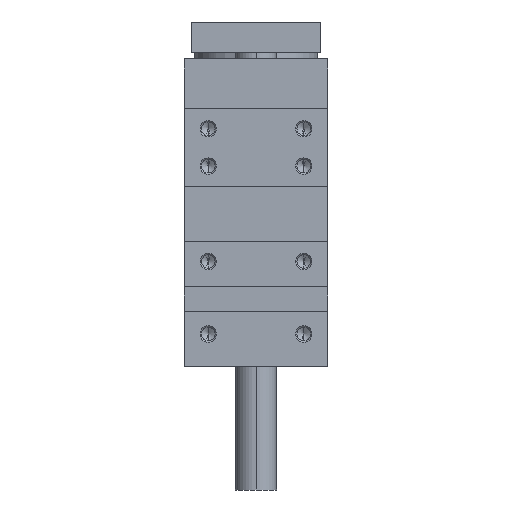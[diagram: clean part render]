
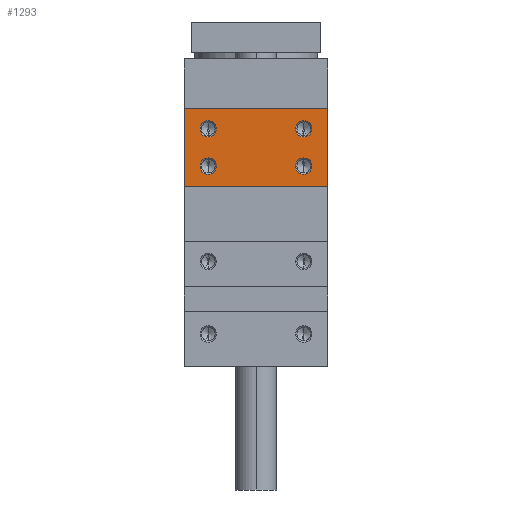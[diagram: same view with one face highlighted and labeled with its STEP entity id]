
A CAD part, left-side view. The second image highlights one B-rep face of the part: STEP entity #1293.
In plain terms, the highlighted planar face has unit normal (-1, 0, 0).
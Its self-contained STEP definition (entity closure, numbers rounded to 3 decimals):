
#66 = CARTESIAN_POINT ( 'NONE',  ( -68.5, -23.25, 37. ) ) ;
#88 = DIRECTION ( 'NONE',  ( 0., 0., 1. ) ) ;
#271 = EDGE_LOOP ( 'NONE', ( #1441, #5821 ) ) ;
#322 = EDGE_CURVE ( 'NONE', #6938, #2048, #3311, .T. ) ;
#430 = VERTEX_POINT ( 'NONE', #8166 ) ;
#488 = DIRECTION ( 'NONE',  ( 0., 0., 1. ) ) ;
#612 = CARTESIAN_POINT ( 'NONE',  ( -68.5, -23.25, 22.8 ) ) ;
#737 = DIRECTION ( 'NONE',  ( 1., 0., 0. ) ) ;
#783 = ORIENTED_EDGE ( 'NONE', *, *, #9609, .T. ) ;
#896 = EDGE_CURVE ( 'NONE', #8604, #430, #3978, .T. ) ;
#906 = VECTOR ( 'NONE', #2776, 1000. ) ;
#1014 = CARTESIAN_POINT ( 'NONE',  ( -68.5, -23.25, 41. ) ) ;
#1050 = VERTEX_POINT ( 'NONE', #2504 ) ;
#1072 = AXIS2_PLACEMENT_3D ( 'NONE', #5644, #7239, #10578 ) ;
#1118 = DIRECTION ( 'NONE',  ( 1., 0., 0. ) ) ;
#1194 = DIRECTION ( 'NONE',  ( 0., 0., -1. ) ) ;
#1204 = EDGE_LOOP ( 'NONE', ( #9007, #783 ) ) ;
#1293 = ADVANCED_FACE ( 'NONE', ( #5933, #6594, #8232, #9276, #2372 ), #3183, .F. ) ;
#1441 = ORIENTED_EDGE ( 'NONE', *, *, #8041, .T. ) ;
#1533 = CIRCLE ( 'NONE', #9405, 4. ) ;
#1868 = ORIENTED_EDGE ( 'NONE', *, *, #9550, .F. ) ;
#1880 = AXIS2_PLACEMENT_3D ( 'NONE', #9111, #4836, #2475 ) ;
#2021 = CARTESIAN_POINT ( 'NONE',  ( -68.5, 35., 9. ) ) ;
#2048 = VERTEX_POINT ( 'NONE', #7280 ) ;
#2294 = ORIENTED_EDGE ( 'NONE', *, *, #3479, .T. ) ;
#2303 = VECTOR ( 'NONE', #488, 1000. ) ;
#2346 = EDGE_CURVE ( 'NONE', #10829, #6626, #2777, .T. ) ;
#2372 = FACE_BOUND ( 'NONE', #1204, .T. ) ;
#2399 = CARTESIAN_POINT ( 'NONE',  ( -68.5, 23.25, 18.8 ) ) ;
#2405 = CARTESIAN_POINT ( 'NONE',  ( -68.5, 35., -79. ) ) ;
#2422 = AXIS2_PLACEMENT_3D ( 'NONE', #2399, #5740, #4804 ) ;
#2425 = EDGE_CURVE ( 'NONE', #430, #8604, #1533, .T. ) ;
#2475 = DIRECTION ( 'NONE',  ( 0., 1., 0. ) ) ;
#2504 = CARTESIAN_POINT ( 'NONE',  ( -68.5, 35., 47. ) ) ;
#2580 = LINE ( 'NONE', #5921, #2303 ) ;
#2602 = DIRECTION ( 'NONE',  ( 0., 0., -1. ) ) ;
#2710 = CIRCLE ( 'NONE', #10402, 4. ) ;
#2759 = EDGE_CURVE ( 'NONE', #3083, #3423, #7859, .T. ) ;
#2776 = DIRECTION ( 'NONE',  ( 0., -1., 0. ) ) ;
#2777 = CIRCLE ( 'NONE', #5750, 4. ) ;
#2902 = ORIENTED_EDGE ( 'NONE', *, *, #2425, .T. ) ;
#2977 = EDGE_CURVE ( 'NONE', #3423, #5714, #2580, .T. ) ;
#2998 = CIRCLE ( 'NONE', #1072, 4. ) ;
#3083 = VERTEX_POINT ( 'NONE', #2021 ) ;
#3183 = PLANE ( 'NONE',  #1880 ) ;
#3255 = DIRECTION ( 'NONE',  ( 1., 0., 0. ) ) ;
#3311 = CIRCLE ( 'NONE', #4525, 4. ) ;
#3395 = VECTOR ( 'NONE', #88, 1000. ) ;
#3423 = VERTEX_POINT ( 'NONE', #7607 ) ;
#3429 = EDGE_CURVE ( 'NONE', #1050, #5714, #3485, .T. ) ;
#3479 = EDGE_CURVE ( 'NONE', #6626, #10829, #9147, .T. ) ;
#3485 = LINE ( 'NONE', #3534, #906 ) ;
#3534 = CARTESIAN_POINT ( 'NONE',  ( -68.5, 70., 47. ) ) ;
#3631 = CARTESIAN_POINT ( 'NONE',  ( -68.5, 70., 9. ) ) ;
#3872 = CARTESIAN_POINT ( 'NONE',  ( -68.5, 23.25, 37. ) ) ;
#3978 = CIRCLE ( 'NONE', #2422, 4. ) ;
#4442 = CIRCLE ( 'NONE', #8130, 4. ) ;
#4525 = AXIS2_PLACEMENT_3D ( 'NONE', #3872, #4538, #1194 ) ;
#4538 = DIRECTION ( 'NONE',  ( 1., 0., 0. ) ) ;
#4804 = DIRECTION ( 'NONE',  ( 0., 0., -1. ) ) ;
#4836 = DIRECTION ( 'NONE',  ( 1., 0., 0. ) ) ;
#5029 = CARTESIAN_POINT ( 'NONE',  ( -68.5, -23.25, 37. ) ) ;
#5224 = CARTESIAN_POINT ( 'NONE',  ( -68.5, 23.25, 33. ) ) ;
#5286 = DIRECTION ( 'NONE',  ( 0., 0., -1. ) ) ;
#5337 = ORIENTED_EDGE ( 'NONE', *, *, #2977, .T. ) ;
#5397 = CARTESIAN_POINT ( 'NONE',  ( -68.5, -23.25, 18.8 ) ) ;
#5624 = EDGE_CURVE ( 'NONE', #10854, #9894, #4442, .T. ) ;
#5644 = CARTESIAN_POINT ( 'NONE',  ( -68.5, 23.25, 37. ) ) ;
#5714 = VERTEX_POINT ( 'NONE', #8524 ) ;
#5727 = DIRECTION ( 'NONE',  ( 0., 0., -1. ) ) ;
#5740 = DIRECTION ( 'NONE',  ( 1., 0., 0. ) ) ;
#5750 = AXIS2_PLACEMENT_3D ( 'NONE', #5397, #7205, #5286 ) ;
#5821 = ORIENTED_EDGE ( 'NONE', *, *, #322, .T. ) ;
#5921 = CARTESIAN_POINT ( 'NONE',  ( -68.5, -35., -79. ) ) ;
#5933 = FACE_OUTER_BOUND ( 'NONE', #10526, .T. ) ;
#5957 = DIRECTION ( 'NONE',  ( 0., 0., -1. ) ) ;
#6069 = CARTESIAN_POINT ( 'NONE',  ( -68.5, -23.25, 14.8 ) ) ;
#6515 = AXIS2_PLACEMENT_3D ( 'NONE', #9458, #1118, #5957 ) ;
#6524 = ORIENTED_EDGE ( 'NONE', *, *, #3429, .F. ) ;
#6594 = FACE_BOUND ( 'NONE', #7285, .T. ) ;
#6626 = VERTEX_POINT ( 'NONE', #612 ) ;
#6938 = VERTEX_POINT ( 'NONE', #5224 ) ;
#6984 = DIRECTION ( 'NONE',  ( 0., -1., 0. ) ) ;
#7202 = VECTOR ( 'NONE', #6984, 1000. ) ;
#7205 = DIRECTION ( 'NONE',  ( 1., 0., 0. ) ) ;
#7239 = DIRECTION ( 'NONE',  ( 1., 0., 0. ) ) ;
#7280 = CARTESIAN_POINT ( 'NONE',  ( -68.5, 23.25, 41. ) ) ;
#7285 = EDGE_LOOP ( 'NONE', ( #2902, #9688 ) ) ;
#7607 = CARTESIAN_POINT ( 'NONE',  ( -68.5, -35., 9. ) ) ;
#7859 = LINE ( 'NONE', #3631, #7202 ) ;
#7912 = EDGE_LOOP ( 'NONE', ( #2294, #10476 ) ) ;
#7948 = ORIENTED_EDGE ( 'NONE', *, *, #2759, .T. ) ;
#8035 = CARTESIAN_POINT ( 'NONE',  ( -68.5, -23.25, 33. ) ) ;
#8041 = EDGE_CURVE ( 'NONE', #2048, #6938, #2998, .T. ) ;
#8130 = AXIS2_PLACEMENT_3D ( 'NONE', #66, #3255, #2602 ) ;
#8166 = CARTESIAN_POINT ( 'NONE',  ( -68.5, 23.25, 22.8 ) ) ;
#8232 = FACE_BOUND ( 'NONE', #7912, .T. ) ;
#8248 = DIRECTION ( 'NONE',  ( 1., 0., 0. ) ) ;
#8524 = CARTESIAN_POINT ( 'NONE',  ( -68.5, -35., 47. ) ) ;
#8604 = VERTEX_POINT ( 'NONE', #9254 ) ;
#8965 = CARTESIAN_POINT ( 'NONE',  ( -68.5, 23.25, 18.8 ) ) ;
#9007 = ORIENTED_EDGE ( 'NONE', *, *, #5624, .T. ) ;
#9111 = CARTESIAN_POINT ( 'NONE',  ( -68.5, 35., -79. ) ) ;
#9147 = CIRCLE ( 'NONE', #6515, 4. ) ;
#9254 = CARTESIAN_POINT ( 'NONE',  ( -68.5, 23.25, 14.8 ) ) ;
#9276 = FACE_BOUND ( 'NONE', #271, .T. ) ;
#9405 = AXIS2_PLACEMENT_3D ( 'NONE', #8965, #8248, #5727 ) ;
#9458 = CARTESIAN_POINT ( 'NONE',  ( -68.5, -23.25, 18.8 ) ) ;
#9550 = EDGE_CURVE ( 'NONE', #3083, #1050, #10074, .T. ) ;
#9609 = EDGE_CURVE ( 'NONE', #9894, #10854, #2710, .T. ) ;
#9688 = ORIENTED_EDGE ( 'NONE', *, *, #896, .T. ) ;
#9894 = VERTEX_POINT ( 'NONE', #8035 ) ;
#9963 = DIRECTION ( 'NONE',  ( 0., 0., -1. ) ) ;
#10074 = LINE ( 'NONE', #2405, #3395 ) ;
#10402 = AXIS2_PLACEMENT_3D ( 'NONE', #5029, #737, #9963 ) ;
#10476 = ORIENTED_EDGE ( 'NONE', *, *, #2346, .T. ) ;
#10526 = EDGE_LOOP ( 'NONE', ( #5337, #6524, #1868, #7948 ) ) ;
#10578 = DIRECTION ( 'NONE',  ( 0., 0., -1. ) ) ;
#10829 = VERTEX_POINT ( 'NONE', #6069 ) ;
#10854 = VERTEX_POINT ( 'NONE', #1014 ) ;
